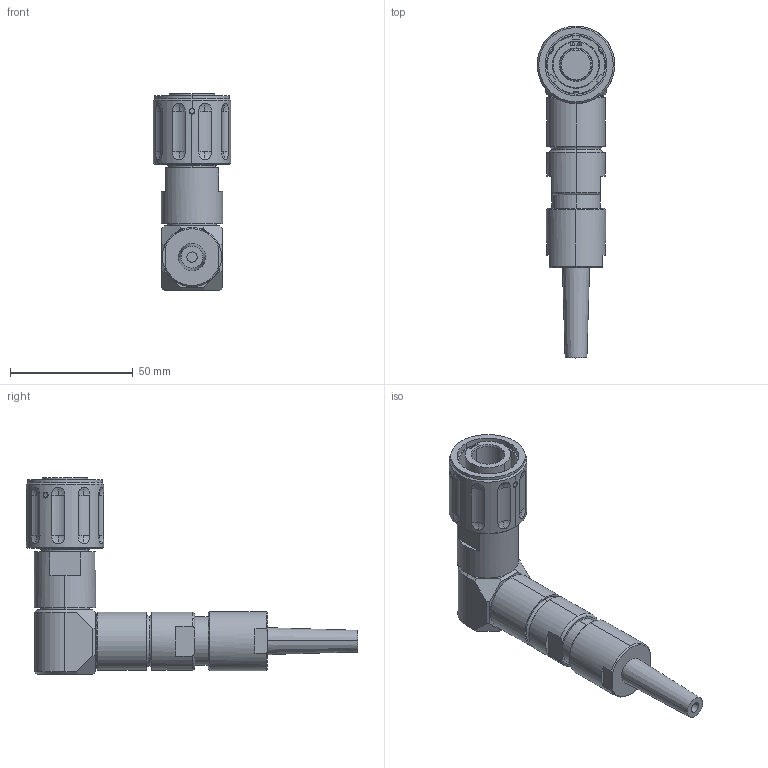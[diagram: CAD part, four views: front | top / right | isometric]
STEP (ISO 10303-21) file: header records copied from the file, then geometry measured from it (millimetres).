
FILE_DESCRIPTION (( 'STEP AP214' ), '1' );
FILE_NAME ('QLINK90-PGBX-13XX-SXXX-RA.STEP', '2025-12-09T16:07:03', ( '' ), ( '' ), 'SwSTEP 2.0', 'SolidWorks 2024', '' );
FILE_SCHEMA (( 'AUTOMOTIVE_DESIGN' ));
Length unit declared in the file: millimetre
Products named in the file (1): QLINK90-PGBX-13XX-SXXX-RA
Bounding box: 31.62 x 135.32 x 80.31 mm (x, y, z)
Volume: 74708.8 mm3; surface area: 20840.1 mm2
Topology: 5 solids, 7 shells, 282 faces, 655 edges, 418 vertices
Faces by surface type: plane 86, cylinder 85, cone 52, sphere 36, bspline 12, torus 11
Entity records: 13125 total; most frequent: CARTESIAN_POINT 6639, DIRECTION 1373, ORIENTED_EDGE 1310, EDGE_CURVE 655, AXIS2_PLACEMENT_3D 555, VERTEX_POINT 418, EDGE_LOOP 321, CIRCLE 284
